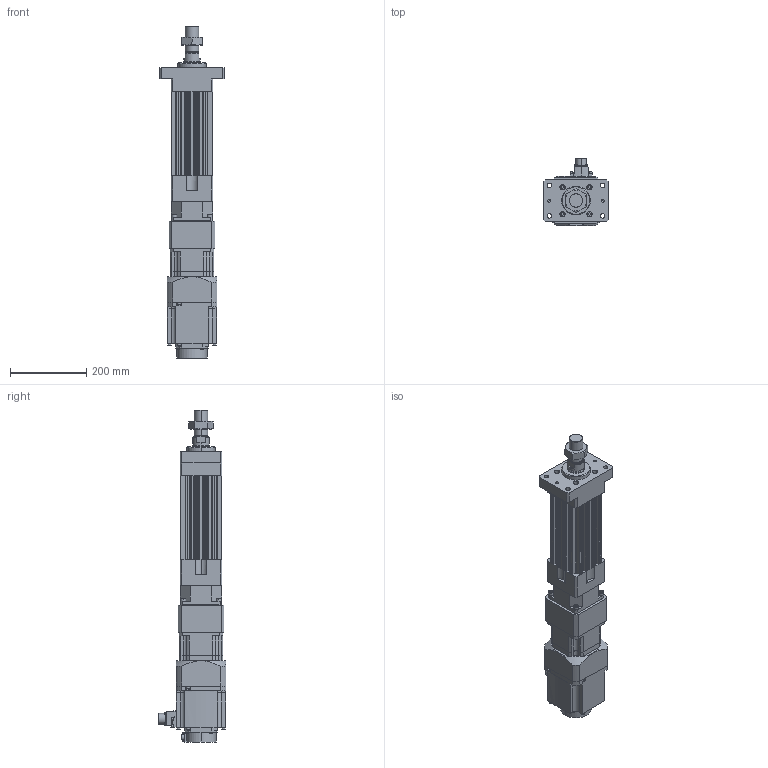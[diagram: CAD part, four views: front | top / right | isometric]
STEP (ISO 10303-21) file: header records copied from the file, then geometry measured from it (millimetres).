
FILE_DESCRIPTION (( 'STEP AP203' ), '1' );
FILE_NAME ('HES110NS(HS)-S050-W015G00-M-FM.STEP', '2023-01-28T05:56:29', ( 'tms' ), ( '' ), 'SwSTEP 2.0', 'SolidWorks 2013', '' );
FILE_SCHEMA (( 'CONFIG_CONTROL_DESIGN' ));
Length unit declared in the file: millimetre
Products named in the file (8): AB1151; P0401400706; HES110 ROD M ST050; HES110-S050-G120-FM; M36X1.5P; HES110NS(HS)-S050-W015G00-M-FM; AB115-003[HG-SR152]; HG-SR152
Assembly tree (7 placements, depth 3):
  HES110NS(HS)-S050-W015G00-M-FM
    HES110-S050-G120-FM
    HES110 ROD M ST050
    M36X1.5P
    AB115-003[HG-SR152]
      AB1151
      P0401400706
    HG-SR152
Bounding box: 170 x 177.49 x 871.5 mm (x, y, z)
Volume: 5795599.3 mm3; surface area: 746861.5 mm2
Topology: 4 solids, 15 shells, 1170 faces, 2958 edges, 1925 vertices
Faces by surface type: plane 559, cylinder 525, cone 74, bspline 8, torus 4
Entity records: 36974 total; most frequent: CARTESIAN_POINT 7028, DIRECTION 6389, ORIENTED_EDGE 5864, EDGE_CURVE 2942, AXIS2_PLACEMENT_3D 2346, VERTEX_POINT 1925, LINE 1697, VECTOR 1697
